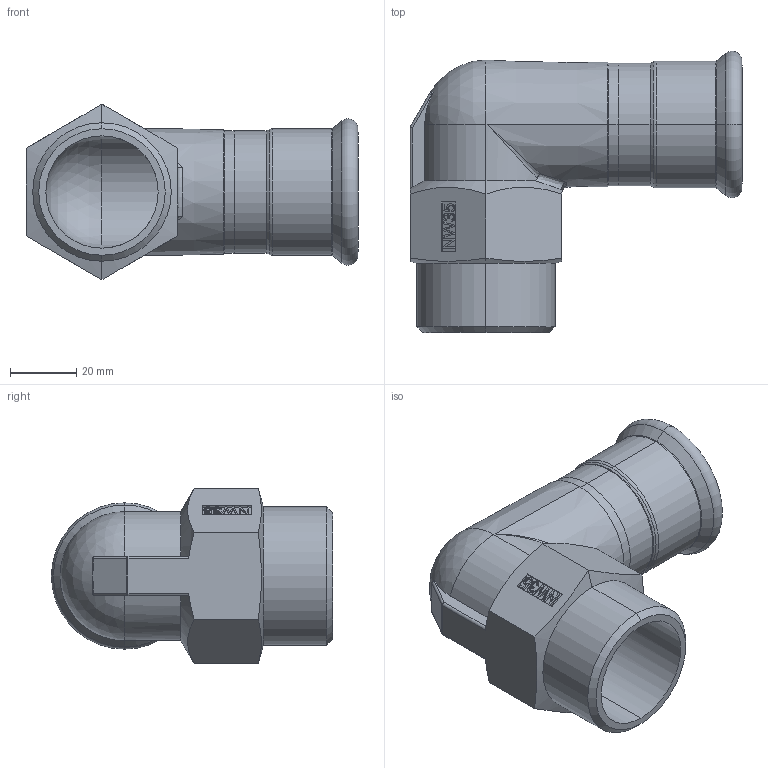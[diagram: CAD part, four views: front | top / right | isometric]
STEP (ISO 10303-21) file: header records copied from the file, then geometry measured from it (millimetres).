
FILE_DESCRIPTION (( 'STEP AP203' ), '1' );
FILE_NAME ('GDA5275.STEP', '2019-01-15T05:36:09', ( '' ), ( '' ), 'SwSTEP 2.0', 'SolidWorks 2015', '' );
FILE_SCHEMA (( 'CONFIG_CONTROL_DESIGN' ));
Length unit declared in the file: millimetre
Products named in the file (3): GDA5275; T-ｉ-01-35; OD35｡ﾁ1.2
Assembly tree (2 placements, depth 2):
  GDA5275
    OD35｡ﾁ1.2
    T-ｉ-01-35
Bounding box: 100.5 x 85.15 x 53.12 mm (x, y, z)
Volume: 53598.5 mm3; surface area: 35100.1 mm2
Topology: 2 solids, 2 shells, 158 faces, 388 edges, 235 vertices
Faces by surface type: plane 60, cylinder 30, bspline 26, cone 19, torus 17, sphere 6
Entity records: 6561 total; most frequent: CARTESIAN_POINT 2742, ORIENTED_EDGE 764, DIRECTION 677, EDGE_CURVE 382, AXIS2_PLACEMENT_3D 239, VERTEX_POINT 234, VECTOR 199, LINE 199
